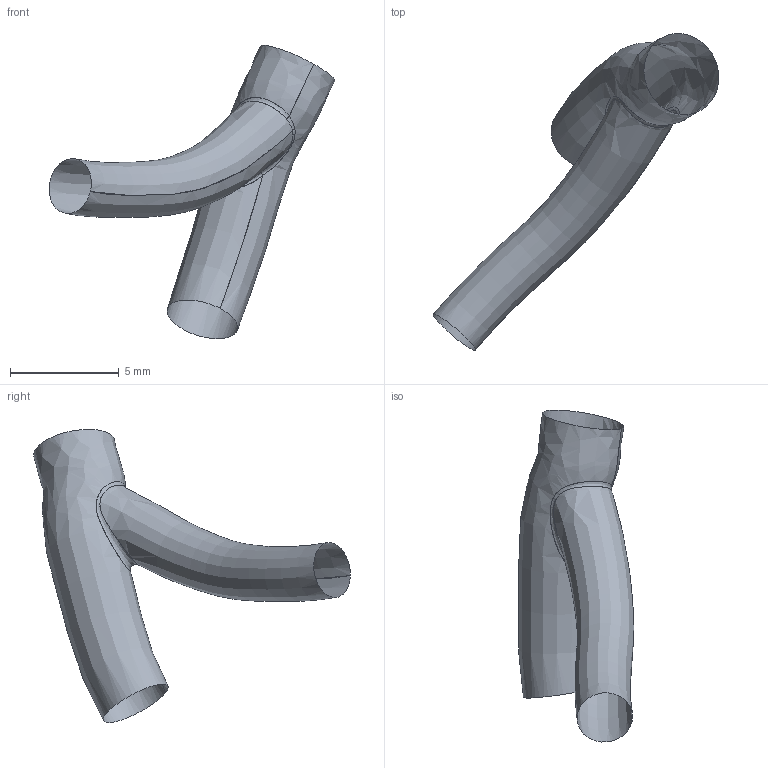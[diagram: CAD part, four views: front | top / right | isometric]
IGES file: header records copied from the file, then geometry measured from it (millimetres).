
Global section: file name: C:\Documents and Settings\Administrator\Desktop\FDA-Pig\Domestic LCA\Pig_000010\lcx.es.igs; native system: Rhinoceros ( May 19 2006 ); preprocessor: Trout Lake IGES 012 May 19 2006; date: 111205.183757; units: centimetre
Bounding box: 13.11 x 14.53 x 13.46 mm (x, y, z)
Surface area: 249.9 mm2 (no closed solid volume)
Topology: 0 solids, 0 shells, 5 faces, 58 edges, 57 vertices
Faces by surface type: bspline 5
